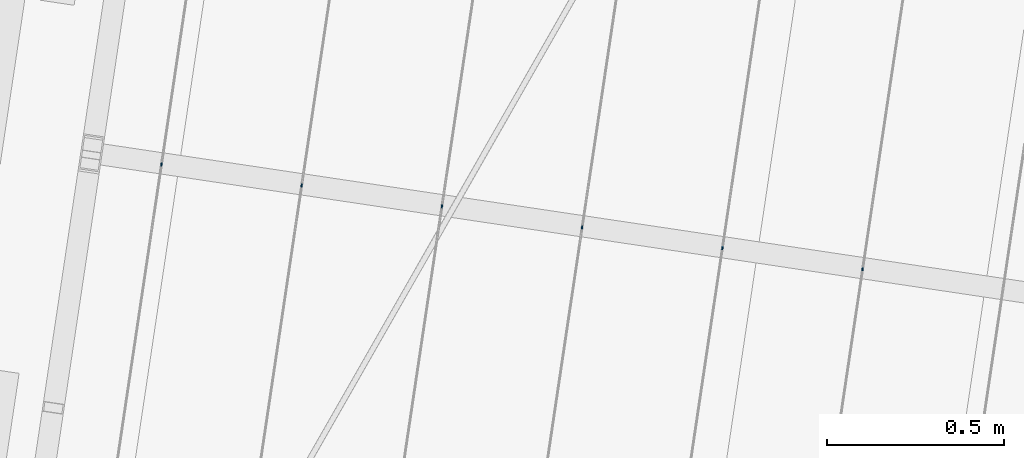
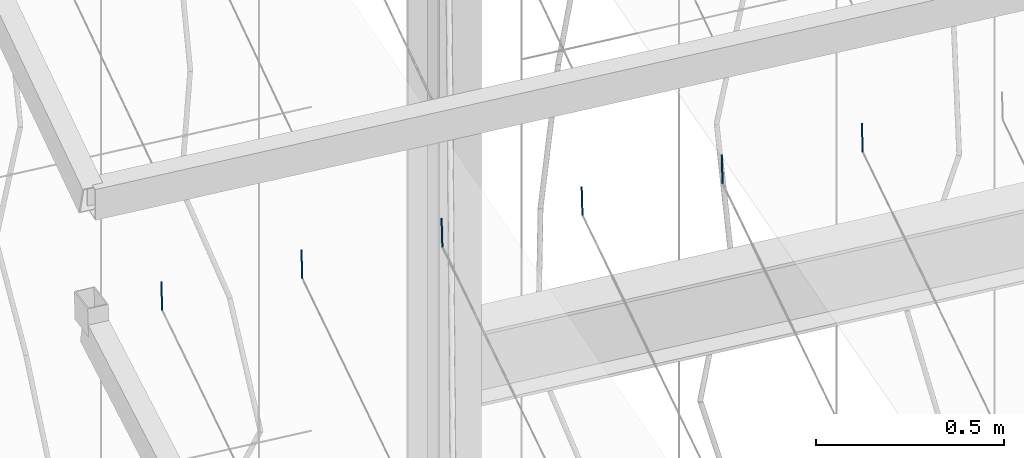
# One storey, part 129 of 142: 6 members, 1 element without a shape of its own.
"""IFC4 building model written with IfcOpenShell, lengths in metres."""

from ifc_helpers import new_model, si_unit, direction, frame, origin_with_axes, place, context, subcontext, project, spatial, circle, extrude, material, material_profile, profile_set, profile_usage, type_object, element, aggregate, save


model = new_model("IFC4")

# Units and contexts
model_context = context("Model", 3, precision=1e-05, world=origin_with_axes(), true_north=direction((0.0, 1.0)))
body_context = subcontext(model_context, "Body", "Model", "MODEL_VIEW")
ifc_project = project(units=[si_unit("AREAUNIT", "SQUARE_METRE"), si_unit("VOLUMEUNIT", "CUBIC_METRE"), si_unit("LENGTHUNIT", "METRE")], contexts=[model_context])

# Site, building, storey
site_placement = place(None, origin_with_axes())
site = spatial("IfcSite", under=ifc_project, at=site_placement, Name="Lares · Rua das Mercês · artigo 4771")
building_placement = place(site_placement, frame((15.0, 9.7, 14.65), z_axis=(0.0, 0.0, 1.0), x_axis=(0.989015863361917, -0.147809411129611, 0.0)))
building = spatial("IfcBuilding", under=site, at=building_placement, Name="Casa Sobreposta")
storey_placement = place(building_placement, origin_with_axes())
storey = spatial("IfcBuildingStorey", under=building, at=storey_placement, Name="00 · Habitação e estacionamento", Elevation=14.65)

# Assembly, members
assembly_placement = place(storey_placement, origin_with_axes())
assembly = element("IfcElementAssembly", 1, at=assembly_placement, inside=storey, Name="Pérgola · prolongamento da estufa 6 m", ObjectType="PERGOLA_GREENHOUSE_EXTENSION", PredefinedType="USERDEFINED")
ifc_material = material(Name="Aço galvanizado / Stahl verzinkt", Category="steel")
ifc_material_profile = material_profile(ifc_material, circle(Radius=0.002))
ifc_profile_set = profile_set([ifc_material_profile], Name="D0.004")
ifc_profile_usage_1 = profile_usage(ifc_profile_set)
member_type = type_object("IfcMemberType", Name="D0.004 / galvanized", PredefinedType="NOTDEFINED", material=ifc_profile_set)
member_1_placement = place(assembly_placement, frame((-5.8, 1.21440957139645, 7.21329402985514), z_axis=(0.0, 0.0686229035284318, 0.997642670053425), x_axis=(1.0, 0.0, 0.0)))
member_1 = element("IfcMember", 2, at=member_1_placement, type_object=member_type, material=ifc_profile_usage_1, Name="Pérgola · fio para trepadeiras", context=body_context, shape_type="SweptSolid", body=[
    extrude(circle(Radius=0.002), origin_with_axes(), (0.0, 0.0, 1.0), 0.0875893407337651),
])
ifc_profile_usage_2 = profile_usage(ifc_profile_set)
member_2_placement = place(assembly_placement, frame((-5.4, 1.21440957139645, 7.21329402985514), z_axis=(0.0, 0.0686229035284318, 0.997642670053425), x_axis=(1.0, 0.0, 0.0)))
member_2 = element("IfcMember", 3, at=member_2_placement, type_object=member_type, material=ifc_profile_usage_2, Name="Pérgola · fio para trepadeiras", context=body_context, shape_type="SweptSolid", body=[
    extrude(circle(Radius=0.002), origin_with_axes(), (0.0, 0.0, 1.0), 0.0875893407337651),
])
ifc_profile_usage_3 = profile_usage(ifc_profile_set)
member_3_placement = place(assembly_placement, frame((-5.0, 1.21440957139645, 7.21329402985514), z_axis=(0.0, 0.0686229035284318, 0.997642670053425), x_axis=(1.0, 0.0, 0.0)))
member_3 = element("IfcMember", 4, at=member_3_placement, type_object=member_type, material=ifc_profile_usage_3, Name="Pérgola · fio para trepadeiras", context=body_context, shape_type="SweptSolid", body=[
    extrude(circle(Radius=0.002), origin_with_axes(), (0.0, 0.0, 1.0), 0.0875893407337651),
])
ifc_profile_usage_4 = profile_usage(ifc_profile_set)
member_4_placement = place(assembly_placement, frame((-4.6, 1.21440957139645, 7.21329402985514), z_axis=(0.0, 0.0686229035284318, 0.997642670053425), x_axis=(1.0, 0.0, 0.0)))
member_4 = element("IfcMember", 5, at=member_4_placement, type_object=member_type, material=ifc_profile_usage_4, Name="Pérgola · fio para trepadeiras", context=body_context, shape_type="SweptSolid", body=[
    extrude(circle(Radius=0.002), origin_with_axes(), (0.0, 0.0, 1.0), 0.0875893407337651),
])
ifc_profile_usage_5 = profile_usage(ifc_profile_set)
member_5_placement = place(assembly_placement, frame((-4.2, 1.21440957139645, 7.21329402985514), z_axis=(0.0, 0.0686229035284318, 0.997642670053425), x_axis=(1.0, 0.0, 0.0)))
member_5 = element("IfcMember", 6, at=member_5_placement, type_object=member_type, material=ifc_profile_usage_5, Name="Pérgola · fio para trepadeiras", context=body_context, shape_type="SweptSolid", body=[
    extrude(circle(Radius=0.002), origin_with_axes(), (0.0, 0.0, 1.0), 0.0875893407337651),
])
ifc_profile_usage_6 = profile_usage(ifc_profile_set)
member_6_placement = place(assembly_placement, frame((-3.8, 1.21440957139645, 7.21329402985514), z_axis=(0.0, 0.0686229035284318, 0.997642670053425), x_axis=(1.0, 0.0, 0.0)))
member_6 = element("IfcMember", 7, at=member_6_placement, type_object=member_type, material=ifc_profile_usage_6, Name="Pérgola · fio para trepadeiras", context=body_context, shape_type="SweptSolid", body=[
    extrude(circle(Radius=0.002), origin_with_axes(), (0.0, 0.0, 1.0), 0.0875893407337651),
])
aggregate(assembly, [member_1, member_2, member_3, member_4, member_5, member_6])

save(model, "model.ifc")
